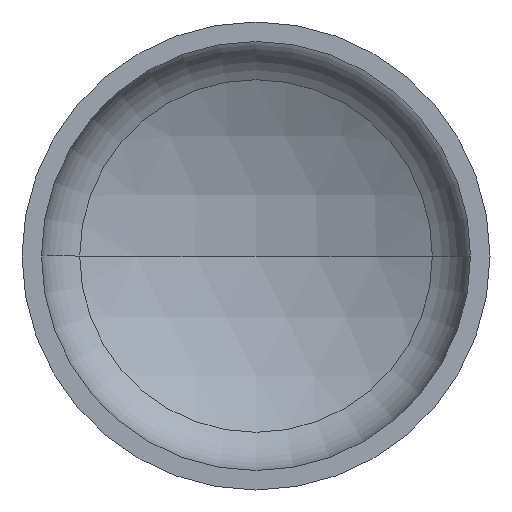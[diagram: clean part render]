
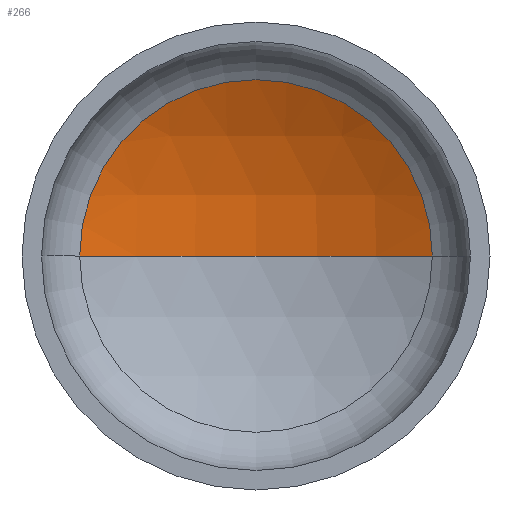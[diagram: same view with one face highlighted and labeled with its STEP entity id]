
A CAD part, front view. The second image highlights one B-rep face of the part: STEP entity #266.
In plain terms, the highlighted spherical face has radius 1920 mm.
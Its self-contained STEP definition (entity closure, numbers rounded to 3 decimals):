
#1 = AXIS2_PLACEMENT_3D ( 'NONE', #117, #315, #210 ) ;
#3 = AXIS2_PLACEMENT_3D ( 'NONE', #114, #155, #161 ) ;
#6 = AXIS2_PLACEMENT_3D ( 'NONE', #270, #378, #109 ) ;
#9 = VERTEX_POINT ( 'NONE', #240 ) ;
#29 = ORIENTED_EDGE ( 'NONE', *, *, #363, .T. ) ;
#30 = EDGE_LOOP ( 'NONE', ( #94, #29, #83 ) ) ;
#36 = AXIS2_PLACEMENT_3D ( 'NONE', #245, #379, #261 ) ;
#83 = ORIENTED_EDGE ( 'NONE', *, *, #374, .T. ) ;
#94 = ORIENTED_EDGE ( 'NONE', *, *, #368, .F. ) ;
#96 = VERTEX_POINT ( 'NONE', #322 ) ;
#109 = DIRECTION ( 'NONE',  ( -1., 0., 0. ) ) ;
#114 = CARTESIAN_POINT ( 'NONE',  ( 0., -1267.333, 0. ) ) ;
#117 = CARTESIAN_POINT ( 'NONE',  ( 0., 426.396, 0. ) ) ;
#124 = FACE_OUTER_BOUND ( 'NONE', #30, .T. ) ;
#137 = VERTEX_POINT ( 'NONE', #288 ) ;
#155 = DIRECTION ( 'NONE',  ( 0., 0., 1. ) ) ;
#161 = DIRECTION ( 'NONE',  ( 1., 0., 0. ) ) ;
#210 = DIRECTION ( 'NONE',  ( 1., 0., 0. ) ) ;
#240 = CARTESIAN_POINT ( 'NONE',  ( -904.258, 426.396, 0. ) ) ;
#245 = CARTESIAN_POINT ( 'NONE',  ( 0., -1267.333, 0. ) ) ;
#261 = DIRECTION ( 'NONE',  ( -1., 0., 0. ) ) ;
#263 = SPHERICAL_SURFACE ( 'NONE', #36, 1920. ) ;
#266 = ADVANCED_FACE ( 'NONE', ( #124 ), #263, .F. ) ;
#270 = CARTESIAN_POINT ( 'NONE',  ( 0., -1267.333, 0. ) ) ;
#288 = CARTESIAN_POINT ( 'NONE',  ( 904.258, 426.396, 0. ) ) ;
#311 = CIRCLE ( 'NONE', #3, 1920. ) ;
#315 = DIRECTION ( 'NONE',  ( 0., -1., 0. ) ) ;
#318 = CIRCLE ( 'NONE', #6, 1920. ) ;
#322 = CARTESIAN_POINT ( 'NONE',  ( 0., 652.667, 0. ) ) ;
#363 = EDGE_CURVE ( 'NONE', #96, #137, #318, .T. ) ;
#368 = EDGE_CURVE ( 'NONE', #96, #9, #311, .T. ) ;
#370 = CIRCLE ( 'NONE', #1, 904.258 ) ;
#374 = EDGE_CURVE ( 'NONE', #137, #9, #370, .T. ) ;
#378 = DIRECTION ( 'NONE',  ( 0., 0., -1. ) ) ;
#379 = DIRECTION ( 'NONE',  ( 0., 0., -1. ) ) ;
